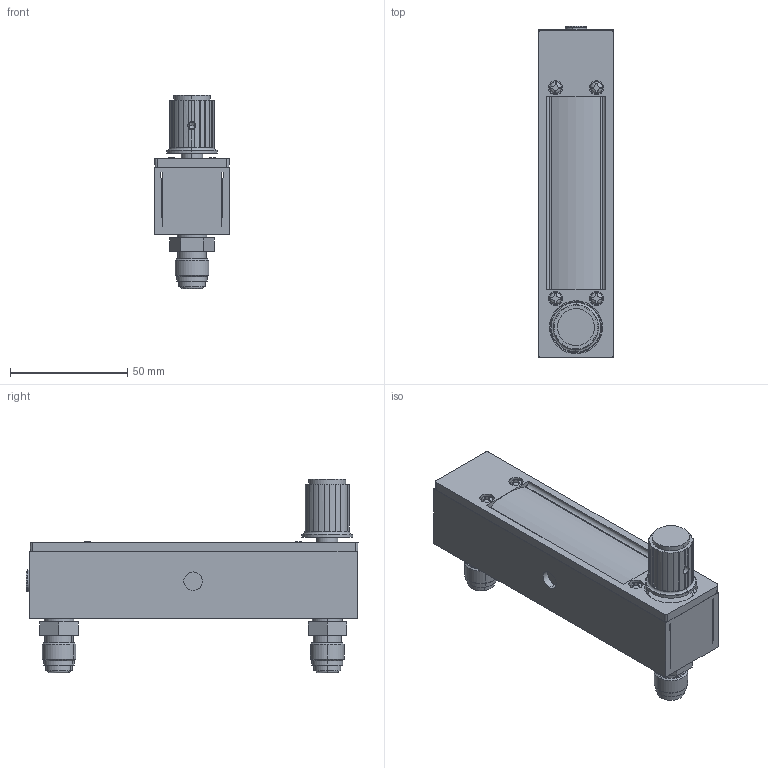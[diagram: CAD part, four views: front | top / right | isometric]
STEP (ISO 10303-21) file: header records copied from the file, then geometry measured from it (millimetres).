
FILE_DESCRIPTION (( 'STEP AP203' ), '1' );
FILE_NAME ('1350-G-7-T-1-A.STEP', '2022-09-22T19:42:47', ( '' ), ( '' ), 'SwSTEP 2.0', 'SolidWorks 2020', '' );
FILE_SCHEMA (( 'CONFIG_CONTROL_DESIGN' ));
Length unit declared in the file: inch
Products named in the file (1): 1350-G-7-T-1-A
Bounding box: 31.75 x 141.5 x 82.41 mm (x, y, z)
Volume: 140296.7 mm3; surface area: 54243.3 mm2
Topology: 5 solids, 9 shells, 519 faces, 1286 edges, 829 vertices
Faces by surface type: plane 272, cylinder 158, cone 57, torus 24, bspline 8
Entity records: 15939 total; most frequent: CARTESIAN_POINT 3430, DIRECTION 2584, ORIENTED_EDGE 2568, EDGE_CURVE 1284, AXIS2_PLACEMENT_3D 947, VERTEX_POINT 829, VECTOR 690, LINE 690
